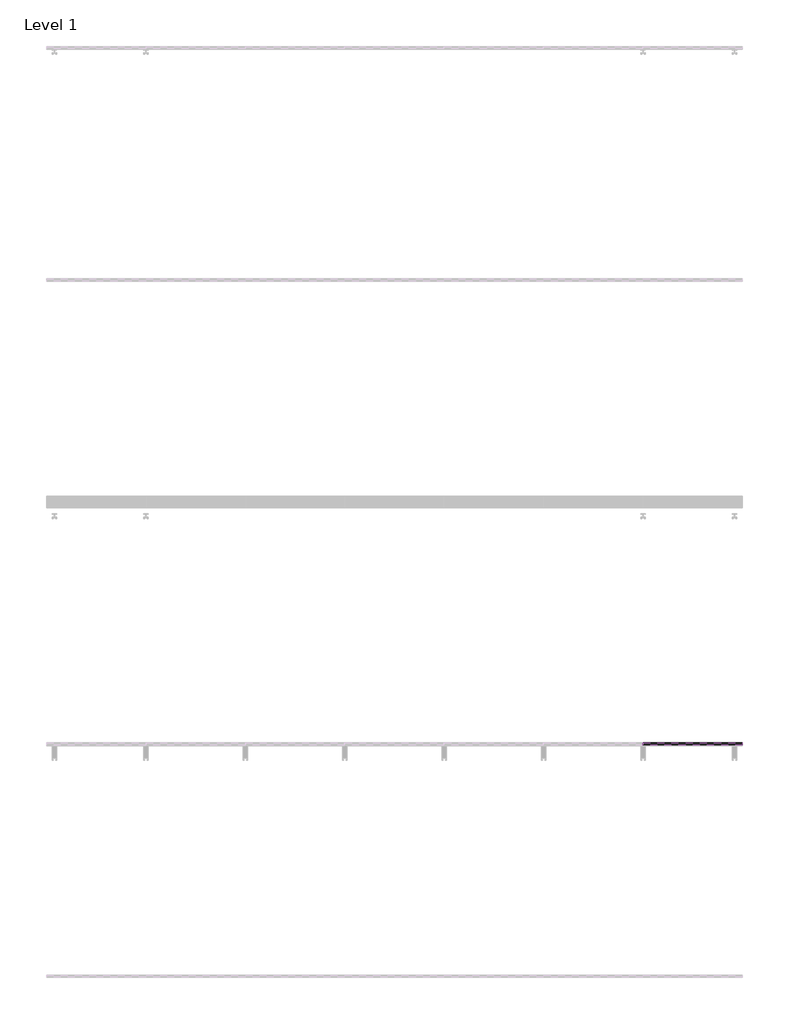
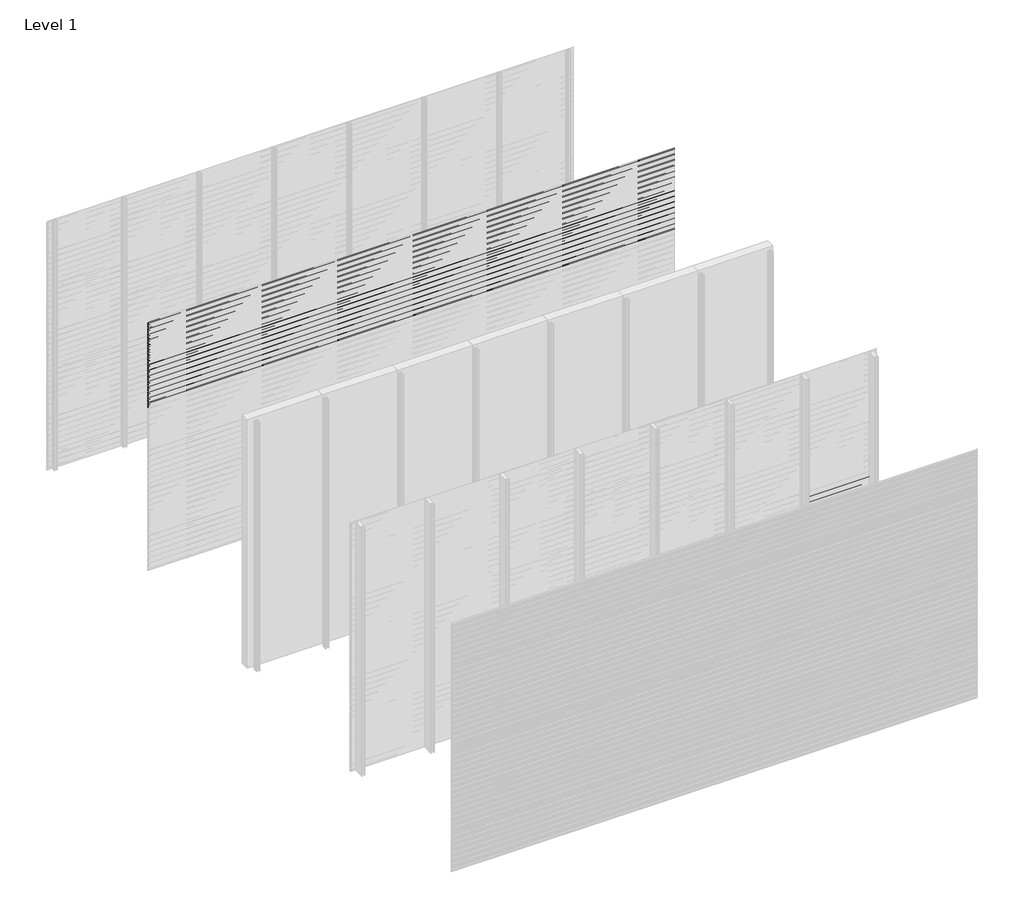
# One storey, part 22 of 96: 77 proxies.
"""IFC4 building model written with IfcOpenShell, lengths in millimetres."""

import ifcopenshell
import ifcopenshell.guid

model = None  # the IFC model being written
_history = None  # IfcOwnerHistory: only IFC2X3 demands one
_inside = {}  # id of a spatial element -> (the spatial element, [elements in it])
_under = {}  # id of a project, library or spatial element -> (it, [spatial elements below it])
_declared = {}  # id of a project -> (the project, [libraries it declares])
_typed = {}  # id of a type object -> (the type object, [elements of that type])
_made_of = {}  # id of a material, layer set ... -> (it, [elements and type objects made of it])


def new_model(schema):
    """Start an empty IFC model of exactly this schema.

    Asked for "IFC4X3", IfcOpenShell would pick the latest addendum, in which some entities
    have other attributes; the version numbers below select the first issue.
    IFC2X3 requires an IfcOwnerHistory on every rooted entity: one is made here for all.
    """
    global model, _history
    if schema == "IFC4X3":
        model = ifcopenshell.file(schema_version=(4, 3, 0, 0))
    else:
        model = ifcopenshell.file(schema=schema)
    _inside.clear()
    _under.clear()
    _declared.clear()
    _typed.clear()
    _made_of.clear()
    _history = None
    if model.schema == "IFC2X3":
        org = make("IfcOrganization", Name="unknown")
        user = make(
            "IfcPersonAndOrganization",
            ThePerson=make("IfcPerson", FamilyName="unknown"),
            TheOrganization=org,
        )
        app = make(
            "IfcApplication",
            ApplicationDeveloper=org,
            Version="unknown",
            ApplicationFullName="unknown",
            ApplicationIdentifier="unknown",
        )
        _history = make(
            "IfcOwnerHistory",
            OwningUser=user,
            OwningApplication=app,
            ChangeAction="ADDED",
            CreationDate=0,
        )
    return model


def make(cls, **values):
    """One entity of the class cls with the attributes given. An attribute that is None is left unset."""
    return model.create_entity(
        cls, **{name: value for name, value in values.items() if value is not None}
    )


def rooted(cls, **values):
    """An entity with a GlobalId (a new one), such as an element, a storey or a relation."""
    return make(cls, GlobalId=ifcopenshell.guid.new(), OwnerHistory=_history, **values)


def si_unit(unit_type, name, prefix=None):
    """IfcSIUnit, for example si_unit("LENGTHUNIT", "METRE", prefix="MILLI")."""
    return make("IfcSIUnit", UnitType=unit_type, Prefix=prefix, Name=name)


def assignment(units):
    """IfcUnitAssignment: the units of a project."""
    return None if units is None else make("IfcUnitAssignment", Units=units)


def point(xyz):
    """IfcCartesianPoint."""
    return None if xyz is None else make("IfcCartesianPoint", Coordinates=xyz)


def direction(xyz):
    """IfcDirection."""
    return None if xyz is None else make("IfcDirection", DirectionRatios=xyz)


def frame(location, z_axis=None, x_axis=None):
    """IfcAxis2Placement3D, a coordinate frame: its origin and axes. An axis left out is left unset."""
    return make(
        "IfcAxis2Placement3D",
        Location=point(location),
        Axis=direction(z_axis),
        RefDirection=direction(x_axis),
    )


def origin():
    """The frame at (0, 0, 0) with its axes left unset."""
    return frame((0.0, 0.0, 0.0))


def place(relative_to, where):
    """IfcLocalPlacement: puts the frame where relative to a parent placement (None: the world)."""
    return make(
        "IfcLocalPlacement", PlacementRelTo=relative_to, RelativePlacement=where
    )


def context(
    kind, dimensions, precision=None, world=None, true_north=None, identifier=None
):
    """IfcGeometricRepresentationContext, for example the 3D "Model" context."""
    return make(
        "IfcGeometricRepresentationContext",
        ContextIdentifier=identifier,
        ContextType=kind,
        CoordinateSpaceDimension=dimensions,
        Precision=precision,
        WorldCoordinateSystem=world,
        TrueNorth=true_north,
    )


def project(units=None, contexts=None):
    """IfcProject with its units and contexts."""
    return rooted(
        "IfcProject",
        Name="project",
        RepresentationContexts=contexts,
        UnitsInContext=assignment(units),
    )


def spatial(cls, under=None, at=None, **own):
    """A site, building, storey or space (cls), placed at a placement, below another one or the project."""
    s = rooted(cls, ObjectPlacement=at, **own)
    if under is not None:
        _under.setdefault(under.id(), (under, []))[1].append(s)
    return s


def polyline(points):
    """IfcPolyline through the points."""
    return make("IfcPolyline", Points=[point(p) for p in points])


def outline(outer, holes=None, kind="AREA"):
    """IfcArbitraryClosedProfileDef: a profile drawn as a closed curve; with holes, ...WithVoids."""
    if holes is None:
        return make("IfcArbitraryClosedProfileDef", ProfileType=kind, OuterCurve=outer)
    return make(
        "IfcArbitraryProfileDefWithVoids",
        ProfileType=kind,
        OuterCurve=outer,
        InnerCurves=holes,
    )


def extrude(swept, where, along, depth):
    """IfcExtrudedAreaSolid: the profile swept, set in the frame where, extruded along a direction by depth."""
    return make(
        "IfcExtrudedAreaSolid",
        SweptArea=swept,
        Position=where,
        ExtrudedDirection=direction(along),
        Depth=depth,
    )


def shape(context_of_items, identifier, shape_type, items):
    """IfcShapeRepresentation: the items that make up one representation, for example the "Body"."""
    return make(
        "IfcShapeRepresentation",
        ContextOfItems=context_of_items,
        RepresentationIdentifier=identifier,
        RepresentationType=shape_type,
        Items=items,
    )


def made_of(thing, what):
    """Note that an element or type object is made of a material, layer set ...; save() writes the relation."""
    if what is not None:
        _made_of.setdefault(what.id(), (what, []))[1].append(thing)
    return thing


def element(
    cls,
    number,
    at=None,
    inside=None,
    cuts=None,
    type_object=None,
    material=None,
    context=None,
    identifier="Body",
    shape_type=None,
    held_by="IfcProductDefinitionShape",
    body=None,
    shapes=None,
    **own,
):
    """One element of the class cls, such as IfcWall. Its Tag is "e" and its number.

    at: its placement. inside: the storey or other place that contains it. cuts: it is an
    opening in that element (IfcRelVoidsElement). A single representation is given by context,
    identifier, shape_type and body (its items); several are given by shapes. held_by: the class
    of the entity that holds the representations. save() writes the other relations.
    """
    e = rooted(cls, Tag="e%d" % number, ObjectPlacement=at, **own)
    if body is not None:
        shapes = [shape(context, identifier, shape_type, body)]
    if shapes is not None:
        e.Representation = make(held_by, Representations=shapes)
    if inside is not None:
        _inside.setdefault(inside.id(), (inside, []))[1].append(e)
    if cuts is not None:
        rooted(
            "IfcRelVoidsElement", RelatingBuildingElement=cuts, RelatedOpeningElement=e
        )
    if type_object is not None:
        _typed.setdefault(type_object.id(), (type_object, []))[1].append(e)
    return made_of(e, material)


def aggregate(whole, parts):
    """IfcRelAggregates: a whole, such as a stair, and the parts it consists of."""
    return rooted("IfcRelAggregates", RelatingObject=whole, RelatedObjects=parts)


def save(model, path):
    """Write the relations noted so far, then the file.

    IfcRelAggregates (storeys below a building ...), IfcRelContainedInSpatialStructure (elements
    in a storey), IfcRelDefinesByType, IfcRelAssociatesMaterial and IfcRelDeclares: one each for
    every whole, place, type object, material and project.
    """
    for whole, parts in _under.values():
        aggregate(whole, parts)
    for where, things in _inside.values():
        rooted(
            "IfcRelContainedInSpatialStructure",
            RelatedElements=things,
            RelatingStructure=where,
        )
    for kind, things in _typed.values():
        rooted("IfcRelDefinesByType", RelatedObjects=things, RelatingType=kind)
    for what, things in _made_of.values():
        rooted("IfcRelAssociatesMaterial", RelatedObjects=things, RelatingMaterial=what)
    for by, libraries in _declared.values():
        rooted("IfcRelDeclares", RelatingContext=by, RelatedDefinitions=libraries)
    model.write(path)


model = new_model("IFC4")

# Units and contexts
model_context = context("Model", 3, world=origin())
ifc_project = project(units=[si_unit("LENGTHUNIT", "METRE", prefix="MILLI")], contexts=[model_context])

# Site, building, storey
site = spatial("IfcSite", under=ifc_project)
building = spatial("IfcBuilding", under=site)
storey = spatial("IfcBuildingStorey", under=building, Name="Level 1", Elevation=0.0)

# Proxies
placement = place(None, origin())
element("IfcBuildingElementProxy", 1, Name="Wall Sweeps", at=placement, inside=storey, context=model_context, shape_type="SweptSolid", body=[
    extrude(outline(polyline([(-43977.6, 2971.7655033), (-43977.6, 2957.4779188), (-43982.4114965, 2954.7), (-43982.4114965, 2955.9701706), (-43978.85, 2958.0264016), (-43978.85, 2971.0437382), (-43998.0, 2982.1000799), (-43998.0, 2997.0), (-43996.75, 2997.0), (-43996.75, 2982.8217609), (-43977.6, 2971.7655033)])), frame((0.0, 0.0, 0.0), z_axis=(1.0, 0.0, 0.0), x_axis=(0.0, 1.0, 0.0)), (0.0, 0.0, 1.0), 6000.0),
])
element("IfcBuildingElementProxy", 2, Name="Wall Sweeps", at=placement, inside=storey, context=model_context, shape_type="SweptSolid", body=[
    extrude(outline(polyline([(-43977.6, 2938.4655033), (-43977.6, 2924.1779188), (-43982.4114965, 2921.4), (-43982.4114965, 2922.6701706), (-43978.85, 2924.7264016), (-43978.85, 2937.7437382), (-43998.0, 2948.8000799), (-43998.0, 2963.7), (-43996.75, 2963.7), (-43996.75, 2949.5217609), (-43977.6, 2938.4655033)])), frame((0.0, 0.0, 0.0), z_axis=(1.0, 0.0, 0.0), x_axis=(0.0, 1.0, 0.0)), (0.0, 0.0, 1.0), 6000.0),
])
element("IfcBuildingElementProxy", 3, Name="Wall Sweeps", at=placement, inside=storey, context=model_context, shape_type="SweptSolid", body=[
    extrude(outline(polyline([(-43977.6, 2905.1655033), (-43977.6, 2890.8779188), (-43982.4114965, 2888.1), (-43982.4114965, 2889.3701706), (-43978.85, 2891.4264016), (-43978.85, 2904.4437382), (-43998.0, 2915.5000799), (-43998.0, 2930.4), (-43996.75, 2930.4), (-43996.75, 2916.2217609), (-43977.6, 2905.1655033)])), frame((0.0, 0.0, 0.0), z_axis=(1.0, 0.0, 0.0), x_axis=(0.0, 1.0, 0.0)), (0.0, 0.0, 1.0), 6000.0),
])
element("IfcBuildingElementProxy", 4, Name="Wall Sweeps", at=placement, inside=storey, context=model_context, shape_type="SweptSolid", body=[
    extrude(outline(polyline([(-43977.6, 2871.8655033), (-43977.6, 2857.5779188), (-43982.4114965, 2854.8), (-43982.4114965, 2856.0701706), (-43978.85, 2858.1264016), (-43978.85, 2871.1437382), (-43998.0, 2882.2000799), (-43998.0, 2897.1), (-43996.75, 2897.1), (-43996.75, 2882.9217609), (-43977.6, 2871.8655033)])), frame((0.0, 0.0, 0.0), z_axis=(1.0, 0.0, 0.0), x_axis=(0.0, 1.0, 0.0)), (0.0, 0.0, 1.0), 6000.0),
])
element("IfcBuildingElementProxy", 5, Name="Wall Sweeps", at=placement, inside=storey, context=model_context, shape_type="SweptSolid", body=[
    extrude(outline(polyline([(-43977.6, 2838.5655033), (-43977.6, 2824.2779188), (-43982.4114965, 2821.5), (-43982.4114965, 2822.7701706), (-43978.85, 2824.8264016), (-43978.85, 2837.8437382), (-43998.0, 2848.9000799), (-43998.0, 2863.8), (-43996.75, 2863.8), (-43996.75, 2849.6217609), (-43977.6, 2838.5655033)])), frame((0.0, 0.0, 0.0), z_axis=(1.0, 0.0, 0.0), x_axis=(0.0, 1.0, 0.0)), (0.0, 0.0, 1.0), 6000.0),
])
element("IfcBuildingElementProxy", 6, Name="Wall Sweeps", at=placement, inside=storey, context=model_context, shape_type="SweptSolid", body=[
    extrude(outline(polyline([(-43977.6, 2805.2655033), (-43977.6, 2790.9779188), (-43982.4114965, 2788.2), (-43982.4114965, 2789.4701706), (-43978.85, 2791.5264016), (-43978.85, 2804.5437382), (-43998.0, 2815.6000799), (-43998.0, 2830.5), (-43996.75, 2830.5), (-43996.75, 2816.3217609), (-43977.6, 2805.2655033)])), frame((0.0, 0.0, 0.0), z_axis=(1.0, 0.0, 0.0), x_axis=(0.0, 1.0, 0.0)), (0.0, 0.0, 1.0), 6000.0),
])
element("IfcBuildingElementProxy", 7, Name="Wall Sweeps", at=placement, inside=storey, context=model_context, shape_type="SweptSolid", body=[
    extrude(outline(polyline([(-43977.6, 2771.9655033), (-43977.6, 2757.6779188), (-43982.4114965, 2754.9), (-43982.4114965, 2756.1701706), (-43978.85, 2758.2264016), (-43978.85, 2771.2437382), (-43998.0, 2782.3000799), (-43998.0, 2797.2), (-43996.75, 2797.2), (-43996.75, 2783.0217609), (-43977.6, 2771.9655033)])), frame((0.0, 0.0, 0.0), z_axis=(1.0, 0.0, 0.0), x_axis=(0.0, 1.0, 0.0)), (0.0, 0.0, 1.0), 6000.0),
])
element("IfcBuildingElementProxy", 8, Name="Wall Sweeps", at=placement, inside=storey, context=model_context, shape_type="SweptSolid", body=[
    extrude(outline(polyline([(-43977.6, 2738.6655033), (-43977.6, 2724.3779188), (-43982.4114965, 2721.6), (-43982.4114965, 2722.8701706), (-43978.85, 2724.9264016), (-43978.85, 2737.9437382), (-43998.0, 2749.0000799), (-43998.0, 2763.9), (-43996.75, 2763.9), (-43996.75, 2749.7217609), (-43977.6, 2738.6655033)])), frame((0.0, 0.0, 0.0), z_axis=(1.0, 0.0, 0.0), x_axis=(0.0, 1.0, 0.0)), (0.0, 0.0, 1.0), 6000.0),
])
element("IfcBuildingElementProxy", 9, Name="Wall Sweeps", at=placement, inside=storey, context=model_context, shape_type="SweptSolid", body=[
    extrude(outline(polyline([(-43977.6, 2705.3655033), (-43977.6, 2691.0779188), (-43982.4114965, 2688.3), (-43982.4114965, 2689.5701706), (-43978.85, 2691.6264016), (-43978.85, 2704.6437382), (-43998.0, 2715.7000799), (-43998.0, 2730.6), (-43996.75, 2730.6), (-43996.75, 2716.4217609), (-43977.6, 2705.3655033)])), frame((0.0, 0.0, 0.0), z_axis=(1.0, 0.0, 0.0), x_axis=(0.0, 1.0, 0.0)), (0.0, 0.0, 1.0), 6000.0),
])
element("IfcBuildingElementProxy", 10, Name="Wall Sweeps", at=placement, inside=storey, context=model_context, shape_type="SweptSolid", body=[
    extrude(outline(polyline([(-43977.6, 2672.0655033), (-43977.6, 2657.7779188), (-43982.4114965, 2655.0), (-43982.4114965, 2656.2701706), (-43978.85, 2658.3264016), (-43978.85, 2671.3437382), (-43998.0, 2682.4000799), (-43998.0, 2697.3), (-43996.75, 2697.3), (-43996.75, 2683.1217609), (-43977.6, 2672.0655033)])), frame((0.0, 0.0, 0.0), z_axis=(1.0, 0.0, 0.0), x_axis=(0.0, 1.0, 0.0)), (0.0, 0.0, 1.0), 6000.0),
])
element("IfcBuildingElementProxy", 11, Name="Wall Sweeps", at=placement, inside=storey, context=model_context, shape_type="SweptSolid", body=[
    extrude(outline(polyline([(-43977.6, 2638.7655033), (-43977.6, 2624.4779188), (-43982.4114965, 2621.7), (-43982.4114965, 2622.9701706), (-43978.85, 2625.0264016), (-43978.85, 2638.0437382), (-43998.0, 2649.1000799), (-43998.0, 2664.0), (-43996.75, 2664.0), (-43996.75, 2649.8217609), (-43977.6, 2638.7655033)])), frame((0.0, 0.0, 0.0), z_axis=(1.0, 0.0, 0.0), x_axis=(0.0, 1.0, 0.0)), (0.0, 0.0, 1.0), 6000.0),
])
element("IfcBuildingElementProxy", 12, Name="Wall Sweeps", at=placement, inside=storey, context=model_context, shape_type="SweptSolid", body=[
    extrude(outline(polyline([(-43977.6, 2605.4655033), (-43977.6, 2591.1779188), (-43982.4114965, 2588.4), (-43982.4114965, 2589.6701706), (-43978.85, 2591.7264016), (-43978.85, 2604.7437382), (-43998.0, 2615.8000799), (-43998.0, 2630.7), (-43996.75, 2630.7), (-43996.75, 2616.5217609), (-43977.6, 2605.4655033)])), frame((0.0, 0.0, 0.0), z_axis=(1.0, 0.0, 0.0), x_axis=(0.0, 1.0, 0.0)), (0.0, 0.0, 1.0), 6000.0),
])
element("IfcBuildingElementProxy", 13, Name="Wall Sweeps", at=placement, inside=storey, context=model_context, shape_type="SweptSolid", body=[
    extrude(outline(polyline([(-43977.6, 2572.1655033), (-43977.6, 2557.8779188), (-43982.4114965, 2555.1), (-43982.4114965, 2556.3701706), (-43978.85, 2558.4264016), (-43978.85, 2571.4437382), (-43998.0, 2582.5000799), (-43998.0, 2597.4), (-43996.75, 2597.4), (-43996.75, 2583.2217609), (-43977.6, 2572.1655033)])), frame((0.0, 0.0, 0.0), z_axis=(1.0, 0.0, 0.0), x_axis=(0.0, 1.0, 0.0)), (0.0, 0.0, 1.0), 6000.0),
])
element("IfcBuildingElementProxy", 14, Name="Wall Sweeps", at=placement, inside=storey, context=model_context, shape_type="SweptSolid", body=[
    extrude(outline(polyline([(-43977.6, 2538.8655033), (-43977.6, 2524.5779188), (-43982.4114965, 2521.8), (-43982.4114965, 2523.0701706), (-43978.85, 2525.1264016), (-43978.85, 2538.1437382), (-43998.0, 2549.2000799), (-43998.0, 2564.1), (-43996.75, 2564.1), (-43996.75, 2549.9217609), (-43977.6, 2538.8655033)])), frame((0.0, 0.0, 0.0), z_axis=(1.0, 0.0, 0.0), x_axis=(0.0, 1.0, 0.0)), (0.0, 0.0, 1.0), 6000.0),
])
element("IfcBuildingElementProxy", 15, Name="Wall Sweeps", at=placement, inside=storey, context=model_context, shape_type="SweptSolid", body=[
    extrude(outline(polyline([(-43977.6, 2505.5655033), (-43977.6, 2491.2779188), (-43982.4114965, 2488.5), (-43982.4114965, 2489.7701706), (-43978.85, 2491.8264016), (-43978.85, 2504.8437382), (-43998.0, 2515.9000799), (-43998.0, 2530.8), (-43996.75, 2530.8), (-43996.75, 2516.6217609), (-43977.6, 2505.5655033)])), frame((0.0, 0.0, 0.0), z_axis=(1.0, 0.0, 0.0), x_axis=(0.0, 1.0, 0.0)), (0.0, 0.0, 1.0), 6000.0),
])
element("IfcBuildingElementProxy", 16, Name="Wall Sweeps", at=placement, inside=storey, context=model_context, shape_type="SweptSolid", body=[
    extrude(outline(polyline([(-43977.6, 2472.2655033), (-43977.6, 2457.9779188), (-43982.4114965, 2455.2), (-43982.4114965, 2456.4701706), (-43978.85, 2458.5264016), (-43978.85, 2471.5437382), (-43998.0, 2482.6000799), (-43998.0, 2497.5), (-43996.75, 2497.5), (-43996.75, 2483.3217609), (-43977.6, 2472.2655033)])), frame((0.0, 0.0, 0.0), z_axis=(1.0, 0.0, 0.0), x_axis=(0.0, 1.0, 0.0)), (0.0, 0.0, 1.0), 6000.0),
])
element("IfcBuildingElementProxy", 17, Name="Wall Sweeps", at=placement, inside=storey, context=model_context, shape_type="SweptSolid", body=[
    extrude(outline(polyline([(-43977.6, 2438.9655033), (-43977.6, 2424.6779188), (-43982.4114965, 2421.9), (-43982.4114965, 2423.1701706), (-43978.85, 2425.2264016), (-43978.85, 2438.2437382), (-43998.0, 2449.3000799), (-43998.0, 2464.2), (-43996.75, 2464.2), (-43996.75, 2450.0217609), (-43977.6, 2438.9655033)])), frame((0.0, 0.0, 0.0), z_axis=(1.0, 0.0, 0.0), x_axis=(0.0, 1.0, 0.0)), (0.0, 0.0, 1.0), 6000.0),
])
element("IfcBuildingElementProxy", 18, Name="Wall Sweeps", at=placement, inside=storey, context=model_context, shape_type="SweptSolid", body=[
    extrude(outline(polyline([(-43977.6, 2405.6655033), (-43977.6, 2391.3779188), (-43982.4114965, 2388.6), (-43982.4114965, 2389.8701706), (-43978.85, 2391.9264016), (-43978.85, 2404.9437382), (-43998.0, 2416.0000799), (-43998.0, 2430.9), (-43996.75, 2430.9), (-43996.75, 2416.7217609), (-43977.6, 2405.6655033)])), frame((0.0, 0.0, 0.0), z_axis=(1.0, 0.0, 0.0), x_axis=(0.0, 1.0, 0.0)), (0.0, 0.0, 1.0), 6000.0),
])
element("IfcBuildingElementProxy", 19, Name="Wall Sweeps", at=placement, inside=storey, context=model_context, shape_type="SweptSolid", body=[
    extrude(outline(polyline([(-43977.6, 2372.3655033), (-43977.6, 2358.0779188), (-43982.4114965, 2355.3), (-43982.4114965, 2356.5701706), (-43978.85, 2358.6264016), (-43978.85, 2371.6437382), (-43998.0, 2382.7000799), (-43998.0, 2397.6), (-43996.75, 2397.6), (-43996.75, 2383.4217609), (-43977.6, 2372.3655033)])), frame((0.0, 0.0, 0.0), z_axis=(1.0, 0.0, 0.0), x_axis=(0.0, 1.0, 0.0)), (0.0, 0.0, 1.0), 6000.0),
])
element("IfcBuildingElementProxy", 20, Name="Wall Sweeps", at=placement, inside=storey, context=model_context, shape_type="SweptSolid", body=[
    extrude(outline(polyline([(-43977.6, 2339.0655033), (-43977.6, 2324.7779188), (-43982.4114965, 2322.0), (-43982.4114965, 2323.2701706), (-43978.85, 2325.3264016), (-43978.85, 2338.3437382), (-43998.0, 2349.4000799), (-43998.0, 2364.3), (-43996.75, 2364.3), (-43996.75, 2350.1217609), (-43977.6, 2339.0655033)])), frame((0.0, 0.0, 0.0), z_axis=(1.0, 0.0, 0.0), x_axis=(0.0, 1.0, 0.0)), (0.0, 0.0, 1.0), 6000.0),
])
element("IfcBuildingElementProxy", 21, Name="Wall Sweeps", at=placement, inside=storey, context=model_context, shape_type="SweptSolid", body=[
    extrude(outline(polyline([(-43977.6, 2305.7655033), (-43977.6, 2291.4779188), (-43982.4114965, 2288.7), (-43982.4114965, 2289.9701706), (-43978.85, 2292.0264016), (-43978.85, 2305.0437382), (-43998.0, 2316.1000799), (-43998.0, 2331.0), (-43996.75, 2331.0), (-43996.75, 2316.8217609), (-43977.6, 2305.7655033)])), frame((0.0, 0.0, 0.0), z_axis=(1.0, 0.0, 0.0), x_axis=(0.0, 1.0, 0.0)), (0.0, 0.0, 1.0), 6000.0),
])
element("IfcBuildingElementProxy", 22, Name="Wall Sweeps", at=placement, inside=storey, context=model_context, shape_type="SweptSolid", body=[
    extrude(outline(polyline([(-43977.6, 2272.4655033), (-43977.6, 2258.1779188), (-43982.4114965, 2255.4), (-43982.4114965, 2256.6701706), (-43978.85, 2258.7264016), (-43978.85, 2271.7437382), (-43998.0, 2282.8000799), (-43998.0, 2297.7), (-43996.75, 2297.7), (-43996.75, 2283.5217609), (-43977.6, 2272.4655033)])), frame((0.0, 0.0, 0.0), z_axis=(1.0, 0.0, 0.0), x_axis=(0.0, 1.0, 0.0)), (0.0, 0.0, 1.0), 6000.0),
])
element("IfcBuildingElementProxy", 23, Name="Wall Sweeps", at=placement, inside=storey, context=model_context, shape_type="SweptSolid", body=[
    extrude(outline(polyline([(-43977.6, 2239.1655033), (-43977.6, 2224.8779188), (-43982.4114965, 2222.1), (-43982.4114965, 2223.3701706), (-43978.85, 2225.4264016), (-43978.85, 2238.4437382), (-43998.0, 2249.5000799), (-43998.0, 2264.4), (-43996.75, 2264.4), (-43996.75, 2250.2217609), (-43977.6, 2239.1655033)])), frame((0.0, 0.0, 0.0), z_axis=(1.0, 0.0, 0.0), x_axis=(0.0, 1.0, 0.0)), (0.0, 0.0, 1.0), 6000.0),
])
element("IfcBuildingElementProxy", 24, Name="Wall Sweeps", at=placement, inside=storey, context=model_context, shape_type="SweptSolid", body=[
    extrude(outline(polyline([(-43977.6, 2205.8655033), (-43977.6, 2191.5779188), (-43982.4114965, 2188.8), (-43982.4114965, 2190.0701706), (-43978.85, 2192.1264016), (-43978.85, 2205.1437382), (-43998.0, 2216.2000799), (-43998.0, 2231.1), (-43996.75, 2231.1), (-43996.75, 2216.9217609), (-43977.6, 2205.8655033)])), frame((0.0, 0.0, 0.0), z_axis=(1.0, 0.0, 0.0), x_axis=(0.0, 1.0, 0.0)), (0.0, 0.0, 1.0), 6000.0),
])
element("IfcBuildingElementProxy", 25, Name="Wall Sweeps", at=placement, inside=storey, context=model_context, shape_type="SweptSolid", body=[
    extrude(outline(polyline([(-43977.6, 2172.5655033), (-43977.6, 2158.2779188), (-43982.4114965, 2155.5), (-43982.4114965, 2156.7701706), (-43978.85, 2158.8264016), (-43978.85, 2171.8437382), (-43998.0, 2182.9000799), (-43998.0, 2197.8), (-43996.75, 2197.8), (-43996.75, 2183.6217609), (-43977.6, 2172.5655033)])), frame((0.0, 0.0, 0.0), z_axis=(1.0, 0.0, 0.0), x_axis=(0.0, 1.0, 0.0)), (0.0, 0.0, 1.0), 6000.0),
])
element("IfcBuildingElementProxy", 26, Name="Wall Sweeps", at=placement, inside=storey, context=model_context, shape_type="SweptSolid", body=[
    extrude(outline(polyline([(-43977.6, 2139.2655033), (-43977.6, 2124.9779188), (-43982.4114965, 2122.2), (-43982.4114965, 2123.4701706), (-43978.85, 2125.5264016), (-43978.85, 2138.5437382), (-43998.0, 2149.6000799), (-43998.0, 2164.5), (-43996.75, 2164.5), (-43996.75, 2150.3217609), (-43977.6, 2139.2655033)])), frame((0.0, 0.0, 0.0), z_axis=(1.0, 0.0, 0.0), x_axis=(0.0, 1.0, 0.0)), (0.0, 0.0, 1.0), 6000.0),
])
element("IfcBuildingElementProxy", 27, Name="Wall Sweeps", at=placement, inside=storey, context=model_context, shape_type="SweptSolid", body=[
    extrude(outline(polyline([(-43977.6, 2105.9655033), (-43977.6, 2091.6779188), (-43982.4114965, 2088.9), (-43982.4114965, 2090.1701706), (-43978.85, 2092.2264016), (-43978.85, 2105.2437382), (-43998.0, 2116.3000799), (-43998.0, 2131.2), (-43996.75, 2131.2), (-43996.75, 2117.0217609), (-43977.6, 2105.9655033)])), frame((0.0, 0.0, 0.0), z_axis=(1.0, 0.0, 0.0), x_axis=(0.0, 1.0, 0.0)), (0.0, 0.0, 1.0), 6000.0),
])
element("IfcBuildingElementProxy", 28, Name="Wall Sweeps", at=placement, inside=storey, context=model_context, shape_type="SweptSolid", body=[
    extrude(outline(polyline([(-43977.6, 2072.6655033), (-43977.6, 2058.3779188), (-43982.4114965, 2055.6), (-43982.4114965, 2056.8701706), (-43978.85, 2058.9264016), (-43978.85, 2071.9437382), (-43998.0, 2083.0000799), (-43998.0, 2097.9), (-43996.75, 2097.9), (-43996.75, 2083.7217609), (-43977.6, 2072.6655033)])), frame((0.0, 0.0, 0.0), z_axis=(1.0, 0.0, 0.0), x_axis=(0.0, 1.0, 0.0)), (0.0, 0.0, 1.0), 6000.0),
])
element("IfcBuildingElementProxy", 29, Name="Wall Sweeps", at=placement, inside=storey, context=model_context, shape_type="SweptSolid", body=[
    extrude(outline(polyline([(-43977.6, 2039.3655033), (-43977.6, 2025.0779188), (-43982.4114965, 2022.3), (-43982.4114965, 2023.5701706), (-43978.85, 2025.6264016), (-43978.85, 2038.6437382), (-43998.0, 2049.7000799), (-43998.0, 2064.6), (-43996.75, 2064.6), (-43996.75, 2050.4217609), (-43977.6, 2039.3655033)])), frame((0.0, 0.0, 0.0), z_axis=(1.0, 0.0, 0.0), x_axis=(0.0, 1.0, 0.0)), (0.0, 0.0, 1.0), 6000.0),
])
element("IfcBuildingElementProxy", 30, Name="Wall Sweeps", at=placement, inside=storey, context=model_context, shape_type="SweptSolid", body=[
    extrude(outline(polyline([(-43977.6, 2006.0655033), (-43977.6, 1991.7779188), (-43982.4114965, 1989.0), (-43982.4114965, 1990.2701706), (-43978.85, 1992.3264016), (-43978.85, 2005.3437382), (-43998.0, 2016.4000799), (-43998.0, 2031.3), (-43996.75, 2031.3), (-43996.75, 2017.1217609), (-43977.6, 2006.0655033)])), frame((0.0, 0.0, 0.0), z_axis=(1.0, 0.0, 0.0), x_axis=(0.0, 1.0, 0.0)), (0.0, 0.0, 1.0), 6000.0),
])
element("IfcBuildingElementProxy", 31, Name="Wall Sweeps", at=placement, inside=storey, context=model_context, shape_type="SweptSolid", body=[
    extrude(outline(polyline([(-43977.6, 1972.7655033), (-43977.6, 1958.4779188), (-43982.4114965, 1955.7), (-43982.4114965, 1956.9701706), (-43978.85, 1959.0264016), (-43978.85, 1972.0437382), (-43998.0, 1983.1000799), (-43998.0, 1998.0), (-43996.75, 1998.0), (-43996.75, 1983.8217609), (-43977.6, 1972.7655033)])), frame((0.0, 0.0, 0.0), z_axis=(1.0, 0.0, 0.0), x_axis=(0.0, 1.0, 0.0)), (0.0, 0.0, 1.0), 6000.0),
])
element("IfcBuildingElementProxy", 32, Name="Wall Sweeps", at=placement, inside=storey, context=model_context, shape_type="SweptSolid", body=[
    extrude(outline(polyline([(-47977.6, 1506.5655033), (-47977.6, 1492.2779188), (-47982.4114965, 1489.5), (-47982.4114965, 1490.7701706), (-47978.85, 1492.8264016), (-47978.85, 1505.8437382), (-47998.0, 1516.9000799), (-47998.0, 1531.8), (-47996.75, 1531.8), (-47996.75, 1517.6217609), (-47977.6, 1506.5655033)])), frame((5142.8571429, 0.0, 0.0), z_axis=(1.0, 0.0, 0.0), x_axis=(0.0, 1.0, 0.0)), (0.0, 0.0, 1.0), 857.1428571),
])
element("IfcBuildingElementProxy", 33, Name="Wall Sweeps", at=placement, inside=storey, context=model_context, shape_type="SweptSolid", body=[
    extrude(outline(polyline([(-47977.6, 1473.2655033), (-47977.6, 1458.9779188), (-47982.4114965, 1456.2), (-47982.4114965, 1457.4701706), (-47978.85, 1459.5264016), (-47978.85, 1472.5437382), (-47998.0, 1483.6000799), (-47998.0, 1498.5), (-47996.75, 1498.5), (-47996.75, 1484.3217609), (-47977.6, 1473.2655033)])), frame((5142.8571429, 0.0, 0.0), z_axis=(1.0, 0.0, 0.0), x_axis=(0.0, 1.0, 0.0)), (0.0, 0.0, 1.0), 857.1428571),
])
element("IfcBuildingElementProxy", 34, Name="Wall Sweeps", at=placement, inside=storey, context=model_context, shape_type="SweptSolid", body=[
    extrude(outline(polyline([(-47977.6, 1439.9655033), (-47977.6, 1425.6779188), (-47982.4114965, 1422.9), (-47982.4114965, 1424.1701706), (-47978.85, 1426.2264016), (-47978.85, 1439.2437382), (-47998.0, 1450.3000799), (-47998.0, 1465.2), (-47996.75, 1465.2), (-47996.75, 1451.0217609), (-47977.6, 1439.9655033)])), frame((5142.8571429, 0.0, 0.0), z_axis=(1.0, 0.0, 0.0), x_axis=(0.0, 1.0, 0.0)), (0.0, 0.0, 1.0), 857.1428571),
])
element("IfcBuildingElementProxy", 35, Name="Wall Sweeps", at=placement, inside=storey, context=model_context, shape_type="SweptSolid", body=[
    extrude(outline(polyline([(-47977.6, 1406.6655033), (-47977.6, 1392.3779188), (-47982.4114965, 1389.6), (-47982.4114965, 1390.8701706), (-47978.85, 1392.9264016), (-47978.85, 1405.9437382), (-47998.0, 1417.0000799), (-47998.0, 1431.9), (-47996.75, 1431.9), (-47996.75, 1417.7217609), (-47977.6, 1406.6655033)])), frame((5142.8571429, 0.0, 0.0), z_axis=(1.0, 0.0, 0.0), x_axis=(0.0, 1.0, 0.0)), (0.0, 0.0, 1.0), 857.1428571),
])
element("IfcBuildingElementProxy", 36, Name="Wall Sweeps", at=placement, inside=storey, context=model_context, shape_type="SweptSolid", body=[
    extrude(outline(polyline([(-47977.6, 1373.3655033), (-47977.6, 1359.0779188), (-47982.4114965, 1356.3), (-47982.4114965, 1357.5701706), (-47978.85, 1359.6264016), (-47978.85, 1372.6437382), (-47998.0, 1383.7000799), (-47998.0, 1398.6), (-47996.75, 1398.6), (-47996.75, 1384.4217609), (-47977.6, 1373.3655033)])), frame((5142.8571429, 0.0, 0.0), z_axis=(1.0, 0.0, 0.0), x_axis=(0.0, 1.0, 0.0)), (0.0, 0.0, 1.0), 857.1428571),
])
element("IfcBuildingElementProxy", 37, Name="Wall Sweeps", at=placement, inside=storey, context=model_context, shape_type="SweptSolid", body=[
    extrude(outline(polyline([(-47977.6, 1340.0655033), (-47977.6, 1325.7779188), (-47982.4114965, 1323.0), (-47982.4114965, 1324.2701706), (-47978.85, 1326.3264016), (-47978.85, 1339.3437382), (-47998.0, 1350.4000799), (-47998.0, 1365.3), (-47996.75, 1365.3), (-47996.75, 1351.1217609), (-47977.6, 1340.0655033)])), frame((5142.8571429, 0.0, 0.0), z_axis=(1.0, 0.0, 0.0), x_axis=(0.0, 1.0, 0.0)), (0.0, 0.0, 1.0), 857.1428571),
])
element("IfcBuildingElementProxy", 38, Name="Wall Sweeps", at=placement, inside=storey, context=model_context, shape_type="SweptSolid", body=[
    extrude(outline(polyline([(-47977.6, 1306.7655033), (-47977.6, 1292.4779188), (-47982.4114965, 1289.7), (-47982.4114965, 1290.9701706), (-47978.85, 1293.0264016), (-47978.85, 1306.0437382), (-47998.0, 1317.1000799), (-47998.0, 1332.0), (-47996.75, 1332.0), (-47996.75, 1317.8217609), (-47977.6, 1306.7655033)])), frame((5142.8571429, 0.0, 0.0), z_axis=(1.0, 0.0, 0.0), x_axis=(0.0, 1.0, 0.0)), (0.0, 0.0, 1.0), 857.1428571),
])
element("IfcBuildingElementProxy", 39, Name="Wall Sweeps", at=placement, inside=storey, context=model_context, shape_type="SweptSolid", body=[
    extrude(outline(polyline([(-47977.6, 1273.4655033), (-47977.6, 1259.1779188), (-47982.4114965, 1256.4), (-47982.4114965, 1257.6701706), (-47978.85, 1259.7264016), (-47978.85, 1272.7437382), (-47998.0, 1283.8000799), (-47998.0, 1298.7), (-47996.75, 1298.7), (-47996.75, 1284.5217609), (-47977.6, 1273.4655033)])), frame((5142.8571429, 0.0, 0.0), z_axis=(1.0, 0.0, 0.0), x_axis=(0.0, 1.0, 0.0)), (0.0, 0.0, 1.0), 857.1428571),
])
element("IfcBuildingElementProxy", 40, Name="Wall Sweeps", at=placement, inside=storey, context=model_context, shape_type="SweptSolid", body=[
    extrude(outline(polyline([(-47977.6, 1240.1655033), (-47977.6, 1225.8779188), (-47982.4114965, 1223.1), (-47982.4114965, 1224.3701706), (-47978.85, 1226.4264016), (-47978.85, 1239.4437382), (-47998.0, 1250.5000799), (-47998.0, 1265.4), (-47996.75, 1265.4), (-47996.75, 1251.2217609), (-47977.6, 1240.1655033)])), frame((5142.8571429, 0.0, 0.0), z_axis=(1.0, 0.0, 0.0), x_axis=(0.0, 1.0, 0.0)), (0.0, 0.0, 1.0), 857.1428571),
])
element("IfcBuildingElementProxy", 41, Name="Wall Sweeps", at=placement, inside=storey, context=model_context, shape_type="SweptSolid", body=[
    extrude(outline(polyline([(-47977.6, 1206.8655033), (-47977.6, 1192.5779188), (-47982.4114965, 1189.8), (-47982.4114965, 1191.0701706), (-47978.85, 1193.1264016), (-47978.85, 1206.1437382), (-47998.0, 1217.2000799), (-47998.0, 1232.1), (-47996.75, 1232.1), (-47996.75, 1217.9217609), (-47977.6, 1206.8655033)])), frame((5142.8571429, 0.0, 0.0), z_axis=(1.0, 0.0, 0.0), x_axis=(0.0, 1.0, 0.0)), (0.0, 0.0, 1.0), 857.1428571),
])
element("IfcBuildingElementProxy", 42, Name="Wall Sweeps", at=placement, inside=storey, context=model_context, shape_type="SweptSolid", body=[
    extrude(outline(polyline([(-47977.6, 1173.5655033), (-47977.6, 1159.2779188), (-47982.4114965, 1156.5), (-47982.4114965, 1157.7701706), (-47978.85, 1159.8264016), (-47978.85, 1172.8437382), (-47998.0, 1183.9000799), (-47998.0, 1198.8), (-47996.75, 1198.8), (-47996.75, 1184.6217609), (-47977.6, 1173.5655033)])), frame((5142.8571429, 0.0, 0.0), z_axis=(1.0, 0.0, 0.0), x_axis=(0.0, 1.0, 0.0)), (0.0, 0.0, 1.0), 857.1428571),
])
element("IfcBuildingElementProxy", 43, Name="Wall Sweeps", at=placement, inside=storey, context=model_context, shape_type="SweptSolid", body=[
    extrude(outline(polyline([(-47977.6, 1140.2655033), (-47977.6, 1125.9779188), (-47982.4114965, 1123.2), (-47982.4114965, 1124.4701706), (-47978.85, 1126.5264016), (-47978.85, 1139.5437382), (-47998.0, 1150.6000799), (-47998.0, 1165.5), (-47996.75, 1165.5), (-47996.75, 1151.3217609), (-47977.6, 1140.2655033)])), frame((5142.8571429, 0.0, 0.0), z_axis=(1.0, 0.0, 0.0), x_axis=(0.0, 1.0, 0.0)), (0.0, 0.0, 1.0), 857.1428571),
])
element("IfcBuildingElementProxy", 44, Name="Wall Sweeps", at=placement, inside=storey, context=model_context, shape_type="SweptSolid", body=[
    extrude(outline(polyline([(-47977.6, 1106.9655033), (-47977.6, 1092.6779188), (-47982.4114965, 1089.9), (-47982.4114965, 1091.1701706), (-47978.85, 1093.2264016), (-47978.85, 1106.2437382), (-47998.0, 1117.3000799), (-47998.0, 1132.2), (-47996.75, 1132.2), (-47996.75, 1118.0217609), (-47977.6, 1106.9655033)])), frame((5142.8571429, 0.0, 0.0), z_axis=(1.0, 0.0, 0.0), x_axis=(0.0, 1.0, 0.0)), (0.0, 0.0, 1.0), 857.1428571),
])
element("IfcBuildingElementProxy", 45, Name="Wall Sweeps", at=placement, inside=storey, context=model_context, shape_type="SweptSolid", body=[
    extrude(outline(polyline([(-47977.6, 1073.6655033), (-47977.6, 1059.3779188), (-47982.4114965, 1056.6), (-47982.4114965, 1057.8701706), (-47978.85, 1059.9264016), (-47978.85, 1072.9437382), (-47998.0, 1084.0000799), (-47998.0, 1098.9), (-47996.75, 1098.9), (-47996.75, 1084.7217609), (-47977.6, 1073.6655033)])), frame((5142.8571429, 0.0, 0.0), z_axis=(1.0, 0.0, 0.0), x_axis=(0.0, 1.0, 0.0)), (0.0, 0.0, 1.0), 857.1428571),
])
element("IfcBuildingElementProxy", 46, Name="Wall Sweeps", at=placement, inside=storey, context=model_context, shape_type="SweptSolid", body=[
    extrude(outline(polyline([(-47977.6, 1040.3655033), (-47977.6, 1026.0779188), (-47982.4114965, 1023.3), (-47982.4114965, 1024.5701706), (-47978.85, 1026.6264016), (-47978.85, 1039.6437382), (-47998.0, 1050.7000799), (-47998.0, 1065.6), (-47996.75, 1065.6), (-47996.75, 1051.4217609), (-47977.6, 1040.3655033)])), frame((5142.8571429, 0.0, 0.0), z_axis=(1.0, 0.0, 0.0), x_axis=(0.0, 1.0, 0.0)), (0.0, 0.0, 1.0), 857.1428571),
])
element("IfcBuildingElementProxy", 47, Name="Wall Sweeps", at=placement, inside=storey, context=model_context, shape_type="SweptSolid", body=[
    extrude(outline(polyline([(-47977.6, 1007.0655033), (-47977.6, 992.7779188), (-47982.4114965, 990.0), (-47982.4114965, 991.2701706), (-47978.85, 993.3264016), (-47978.85, 1006.3437382), (-47998.0, 1017.4000799), (-47998.0, 1032.3), (-47996.75, 1032.3), (-47996.75, 1018.1217609), (-47977.6, 1007.0655033)])), frame((5142.8571429, 0.0, 0.0), z_axis=(1.0, 0.0, 0.0), x_axis=(0.0, 1.0, 0.0)), (0.0, 0.0, 1.0), 857.1428571),
])
element("IfcBuildingElementProxy", 48, Name="Wall Sweeps", at=placement, inside=storey, context=model_context, shape_type="SweptSolid", body=[
    extrude(outline(polyline([(-47977.6, 973.7655033), (-47977.6, 959.4779188), (-47982.4114965, 956.7), (-47982.4114965, 957.9701706), (-47978.85, 960.0264016), (-47978.85, 973.0437382), (-47998.0, 984.1000799), (-47998.0, 999.0), (-47996.75, 999.0), (-47996.75, 984.8217609), (-47977.6, 973.7655033)])), frame((5142.8571429, 0.0, 0.0), z_axis=(1.0, 0.0, 0.0), x_axis=(0.0, 1.0, 0.0)), (0.0, 0.0, 1.0), 857.1428571),
])
element("IfcBuildingElementProxy", 49, Name="Wall Sweeps", at=placement, inside=storey, context=model_context, shape_type="SweptSolid", body=[
    extrude(outline(polyline([(-47977.6, 940.4655033), (-47977.6, 926.1779188), (-47982.4114965, 923.4), (-47982.4114965, 924.6701706), (-47978.85, 926.7264016), (-47978.85, 939.7437382), (-47998.0, 950.8000799), (-47998.0, 965.7), (-47996.75, 965.7), (-47996.75, 951.5217609), (-47977.6, 940.4655033)])), frame((5142.8571429, 0.0, 0.0), z_axis=(1.0, 0.0, 0.0), x_axis=(0.0, 1.0, 0.0)), (0.0, 0.0, 1.0), 857.1428571),
])
element("IfcBuildingElementProxy", 50, Name="Wall Sweeps", at=placement, inside=storey, context=model_context, shape_type="SweptSolid", body=[
    extrude(outline(polyline([(-47977.6, 907.1655033), (-47977.6, 892.8779188), (-47982.4114965, 890.1), (-47982.4114965, 891.3701706), (-47978.85, 893.4264016), (-47978.85, 906.4437382), (-47998.0, 917.5000799), (-47998.0, 932.4), (-47996.75, 932.4), (-47996.75, 918.2217609), (-47977.6, 907.1655033)])), frame((5142.8571429, 0.0, 0.0), z_axis=(1.0, 0.0, 0.0), x_axis=(0.0, 1.0, 0.0)), (0.0, 0.0, 1.0), 857.1428571),
])
element("IfcBuildingElementProxy", 51, Name="Wall Sweeps", at=placement, inside=storey, context=model_context, shape_type="SweptSolid", body=[
    extrude(outline(polyline([(-47977.6, 873.8655033), (-47977.6, 859.5779188), (-47982.4114965, 856.8), (-47982.4114965, 858.0701706), (-47978.85, 860.1264016), (-47978.85, 873.1437382), (-47998.0, 884.2000799), (-47998.0, 899.1), (-47996.75, 899.1), (-47996.75, 884.9217609), (-47977.6, 873.8655033)])), frame((5142.8571429, 0.0, 0.0), z_axis=(1.0, 0.0, 0.0), x_axis=(0.0, 1.0, 0.0)), (0.0, 0.0, 1.0), 857.1428571),
])
element("IfcBuildingElementProxy", 52, Name="Wall Sweeps", at=placement, inside=storey, context=model_context, shape_type="SweptSolid", body=[
    extrude(outline(polyline([(-47977.6, 840.5655033), (-47977.6, 826.2779188), (-47982.4114965, 823.5), (-47982.4114965, 824.7701706), (-47978.85, 826.8264016), (-47978.85, 839.8437382), (-47998.0, 850.9000799), (-47998.0, 865.8), (-47996.75, 865.8), (-47996.75, 851.6217609), (-47977.6, 840.5655033)])), frame((5142.8571429, 0.0, 0.0), z_axis=(1.0, 0.0, 0.0), x_axis=(0.0, 1.0, 0.0)), (0.0, 0.0, 1.0), 857.1428571),
])
element("IfcBuildingElementProxy", 53, Name="Wall Sweeps", at=placement, inside=storey, context=model_context, shape_type="SweptSolid", body=[
    extrude(outline(polyline([(-47977.6, 807.2655033), (-47977.6, 792.9779188), (-47982.4114965, 790.2), (-47982.4114965, 791.4701706), (-47978.85, 793.5264016), (-47978.85, 806.5437382), (-47998.0, 817.6000799), (-47998.0, 832.5), (-47996.75, 832.5), (-47996.75, 818.3217609), (-47977.6, 807.2655033)])), frame((5142.8571429, 0.0, 0.0), z_axis=(1.0, 0.0, 0.0), x_axis=(0.0, 1.0, 0.0)), (0.0, 0.0, 1.0), 857.1428571),
])
element("IfcBuildingElementProxy", 54, Name="Wall Sweeps", at=placement, inside=storey, context=model_context, shape_type="SweptSolid", body=[
    extrude(outline(polyline([(-47977.6, 773.9655033), (-47977.6, 759.6779188), (-47982.4114965, 756.9), (-47982.4114965, 758.1701706), (-47978.85, 760.2264016), (-47978.85, 773.2437382), (-47998.0, 784.3000799), (-47998.0, 799.2), (-47996.75, 799.2), (-47996.75, 785.0217609), (-47977.6, 773.9655033)])), frame((5142.8571429, 0.0, 0.0), z_axis=(1.0, 0.0, 0.0), x_axis=(0.0, 1.0, 0.0)), (0.0, 0.0, 1.0), 857.1428571),
])
element("IfcBuildingElementProxy", 55, Name="Wall Sweeps", at=placement, inside=storey, context=model_context, shape_type="SweptSolid", body=[
    extrude(outline(polyline([(-47977.6, 740.6655033), (-47977.6, 726.3779188), (-47982.4114965, 723.6), (-47982.4114965, 724.8701706), (-47978.85, 726.9264016), (-47978.85, 739.9437382), (-47998.0, 751.0000799), (-47998.0, 765.9), (-47996.75, 765.9), (-47996.75, 751.7217609), (-47977.6, 740.6655033)])), frame((5142.8571429, 0.0, 0.0), z_axis=(1.0, 0.0, 0.0), x_axis=(0.0, 1.0, 0.0)), (0.0, 0.0, 1.0), 857.1428571),
])
element("IfcBuildingElementProxy", 56, Name="Wall Sweeps", at=placement, inside=storey, context=model_context, shape_type="SweptSolid", body=[
    extrude(outline(polyline([(-47977.6, 707.3655033), (-47977.6, 693.0779188), (-47982.4114965, 690.3), (-47982.4114965, 691.5701706), (-47978.85, 693.6264016), (-47978.85, 706.6437382), (-47998.0, 717.7000799), (-47998.0, 732.6), (-47996.75, 732.6), (-47996.75, 718.4217609), (-47977.6, 707.3655033)])), frame((5142.8571429, 0.0, 0.0), z_axis=(1.0, 0.0, 0.0), x_axis=(0.0, 1.0, 0.0)), (0.0, 0.0, 1.0), 857.1428571),
])
element("IfcBuildingElementProxy", 57, Name="Wall Sweeps", at=placement, inside=storey, context=model_context, shape_type="SweptSolid", body=[
    extrude(outline(polyline([(-47977.6, 674.0655033), (-47977.6, 659.7779188), (-47982.4114965, 657.0), (-47982.4114965, 658.2701706), (-47978.85, 660.3264016), (-47978.85, 673.3437382), (-47998.0, 684.4000799), (-47998.0, 699.3), (-47996.75, 699.3), (-47996.75, 685.1217609), (-47977.6, 674.0655033)])), frame((5142.8571429, 0.0, 0.0), z_axis=(1.0, 0.0, 0.0), x_axis=(0.0, 1.0, 0.0)), (0.0, 0.0, 1.0), 857.1428571),
])
element("IfcBuildingElementProxy", 58, Name="Wall Sweeps", at=placement, inside=storey, context=model_context, shape_type="SweptSolid", body=[
    extrude(outline(polyline([(-47977.6, 640.7655033), (-47977.6, 626.4779188), (-47982.4114965, 623.7), (-47982.4114965, 624.9701706), (-47978.85, 627.0264016), (-47978.85, 640.0437382), (-47998.0, 651.1000799), (-47998.0, 666.0), (-47996.75, 666.0), (-47996.75, 651.8217609), (-47977.6, 640.7655033)])), frame((5142.8571429, 0.0, 0.0), z_axis=(1.0, 0.0, 0.0), x_axis=(0.0, 1.0, 0.0)), (0.0, 0.0, 1.0), 857.1428571),
])
element("IfcBuildingElementProxy", 59, Name="Wall Sweeps", at=placement, inside=storey, context=model_context, shape_type="SweptSolid", body=[
    extrude(outline(polyline([(-47977.6, 607.4655033), (-47977.6, 593.1779188), (-47982.4114965, 590.4), (-47982.4114965, 591.6701706), (-47978.85, 593.7264016), (-47978.85, 606.7437382), (-47998.0, 617.8000799), (-47998.0, 632.7), (-47996.75, 632.7), (-47996.75, 618.5217609), (-47977.6, 607.4655033)])), frame((5142.8571429, 0.0, 0.0), z_axis=(1.0, 0.0, 0.0), x_axis=(0.0, 1.0, 0.0)), (0.0, 0.0, 1.0), 857.1428571),
])
element("IfcBuildingElementProxy", 60, Name="Wall Sweeps", at=placement, inside=storey, context=model_context, shape_type="SweptSolid", body=[
    extrude(outline(polyline([(-47977.6, 574.1655033), (-47977.6, 559.8779188), (-47982.4114965, 557.1), (-47982.4114965, 558.3701706), (-47978.85, 560.4264016), (-47978.85, 573.4437382), (-47998.0, 584.5000799), (-47998.0, 599.4), (-47996.75, 599.4), (-47996.75, 585.2217609), (-47977.6, 574.1655033)])), frame((5142.8571429, 0.0, 0.0), z_axis=(1.0, 0.0, 0.0), x_axis=(0.0, 1.0, 0.0)), (0.0, 0.0, 1.0), 857.1428571),
])
element("IfcBuildingElementProxy", 61, Name="Wall Sweeps", at=placement, inside=storey, context=model_context, shape_type="SweptSolid", body=[
    extrude(outline(polyline([(-47977.6, 540.8655033), (-47977.6, 526.5779188), (-47982.4114965, 523.8), (-47982.4114965, 525.0701706), (-47978.85, 527.1264016), (-47978.85, 540.1437382), (-47998.0, 551.2000799), (-47998.0, 566.1), (-47996.75, 566.1), (-47996.75, 551.9217609), (-47977.6, 540.8655033)])), frame((5142.8571429, 0.0, 0.0), z_axis=(1.0, 0.0, 0.0), x_axis=(0.0, 1.0, 0.0)), (0.0, 0.0, 1.0), 857.1428571),
])
element("IfcBuildingElementProxy", 62, Name="Wall Sweeps", at=placement, inside=storey, context=model_context, shape_type="SweptSolid", body=[
    extrude(outline(polyline([(-47977.6, 507.5655033), (-47977.6, 493.2779188), (-47982.4114965, 490.5), (-47982.4114965, 491.7701706), (-47978.85, 493.8264016), (-47978.85, 506.8437382), (-47998.0, 517.9000799), (-47998.0, 532.8), (-47996.75, 532.8), (-47996.75, 518.6217609), (-47977.6, 507.5655033)])), frame((5142.8571429, 0.0, 0.0), z_axis=(1.0, 0.0, 0.0), x_axis=(0.0, 1.0, 0.0)), (0.0, 0.0, 1.0), 857.1428571),
])
element("IfcBuildingElementProxy", 63, Name="Wall Sweeps", at=placement, inside=storey, context=model_context, shape_type="SweptSolid", body=[
    extrude(outline(polyline([(-47977.6, 474.2655033), (-47977.6, 459.9779188), (-47982.4114965, 457.2), (-47982.4114965, 458.4701706), (-47978.85, 460.5264016), (-47978.85, 473.5437382), (-47998.0, 484.6000799), (-47998.0, 499.5), (-47996.75, 499.5), (-47996.75, 485.3217609), (-47977.6, 474.2655033)])), frame((5142.8571429, 0.0, 0.0), z_axis=(1.0, 0.0, 0.0), x_axis=(0.0, 1.0, 0.0)), (0.0, 0.0, 1.0), 857.1428571),
])
element("IfcBuildingElementProxy", 64, Name="Wall Sweeps", at=placement, inside=storey, context=model_context, shape_type="SweptSolid", body=[
    extrude(outline(polyline([(-47977.6, 440.9655033), (-47977.6, 426.6779188), (-47982.4114965, 423.9), (-47982.4114965, 425.1701706), (-47978.85, 427.2264016), (-47978.85, 440.2437382), (-47998.0, 451.3000799), (-47998.0, 466.2), (-47996.75, 466.2), (-47996.75, 452.0217609), (-47977.6, 440.9655033)])), frame((5142.8571429, 0.0, 0.0), z_axis=(1.0, 0.0, 0.0), x_axis=(0.0, 1.0, 0.0)), (0.0, 0.0, 1.0), 857.1428571),
])
element("IfcBuildingElementProxy", 65, Name="Wall Sweeps", at=placement, inside=storey, context=model_context, shape_type="SweptSolid", body=[
    extrude(outline(polyline([(-47977.6, 407.6655033), (-47977.6, 393.3779188), (-47982.4114965, 390.6), (-47982.4114965, 391.8701706), (-47978.85, 393.9264016), (-47978.85, 406.9437382), (-47998.0, 418.0000799), (-47998.0, 432.9), (-47996.75, 432.9), (-47996.75, 418.7217609), (-47977.6, 407.6655033)])), frame((5142.8571429, 0.0, 0.0), z_axis=(1.0, 0.0, 0.0), x_axis=(0.0, 1.0, 0.0)), (0.0, 0.0, 1.0), 857.1428571),
])
element("IfcBuildingElementProxy", 66, Name="Wall Sweeps", at=placement, inside=storey, context=model_context, shape_type="SweptSolid", body=[
    extrude(outline(polyline([(-47977.6, 374.3655033), (-47977.6, 360.0779188), (-47982.4114965, 357.3), (-47982.4114965, 358.5701706), (-47978.85, 360.6264016), (-47978.85, 373.6437382), (-47998.0, 384.7000799), (-47998.0, 399.6), (-47996.75, 399.6), (-47996.75, 385.4217609), (-47977.6, 374.3655033)])), frame((5142.8571429, 0.0, 0.0), z_axis=(1.0, 0.0, 0.0), x_axis=(0.0, 1.0, 0.0)), (0.0, 0.0, 1.0), 857.1428571),
])
element("IfcBuildingElementProxy", 67, Name="Wall Sweeps", at=placement, inside=storey, context=model_context, shape_type="SweptSolid", body=[
    extrude(outline(polyline([(-47977.6, 341.0655033), (-47977.6, 326.7779188), (-47982.4114965, 324.0), (-47982.4114965, 325.2701706), (-47978.85, 327.3264016), (-47978.85, 340.3437382), (-47998.0, 351.4000799), (-47998.0, 366.3), (-47996.75, 366.3), (-47996.75, 352.1217609), (-47977.6, 341.0655033)])), frame((5142.8571429, 0.0, 0.0), z_axis=(1.0, 0.0, 0.0), x_axis=(0.0, 1.0, 0.0)), (0.0, 0.0, 1.0), 857.1428571),
])
element("IfcBuildingElementProxy", 68, Name="Wall Sweeps", at=placement, inside=storey, context=model_context, shape_type="SweptSolid", body=[
    extrude(outline(polyline([(-47977.6, 307.7655033), (-47977.6, 293.4779188), (-47982.4114965, 290.7), (-47982.4114965, 291.9701706), (-47978.85, 294.0264016), (-47978.85, 307.0437382), (-47998.0, 318.1000799), (-47998.0, 333.0), (-47996.75, 333.0), (-47996.75, 318.8217609), (-47977.6, 307.7655033)])), frame((5142.8571429, 0.0, 0.0), z_axis=(1.0, 0.0, 0.0), x_axis=(0.0, 1.0, 0.0)), (0.0, 0.0, 1.0), 857.1428571),
])
element("IfcBuildingElementProxy", 69, Name="Wall Sweeps", at=placement, inside=storey, context=model_context, shape_type="SweptSolid", body=[
    extrude(outline(polyline([(-47977.6, 274.4655033), (-47977.6, 260.1779188), (-47982.4114965, 257.4), (-47982.4114965, 258.6701706), (-47978.85, 260.7264016), (-47978.85, 273.7437382), (-47998.0, 284.8000799), (-47998.0, 299.7), (-47996.75, 299.7), (-47996.75, 285.5217609), (-47977.6, 274.4655033)])), frame((5142.8571429, 0.0, 0.0), z_axis=(1.0, 0.0, 0.0), x_axis=(0.0, 1.0, 0.0)), (0.0, 0.0, 1.0), 857.1428571),
])
element("IfcBuildingElementProxy", 70, Name="Wall Sweeps", at=placement, inside=storey, context=model_context, shape_type="SweptSolid", body=[
    extrude(outline(polyline([(-47977.6, 241.1655033), (-47977.6, 226.8779188), (-47982.4114965, 224.1), (-47982.4114965, 225.3701706), (-47978.85, 227.4264016), (-47978.85, 240.4437382), (-47998.0, 251.5000799), (-47998.0, 266.4), (-47996.75, 266.4), (-47996.75, 252.2217609), (-47977.6, 241.1655033)])), frame((5142.8571429, 0.0, 0.0), z_axis=(1.0, 0.0, 0.0), x_axis=(0.0, 1.0, 0.0)), (0.0, 0.0, 1.0), 857.1428571),
])
element("IfcBuildingElementProxy", 71, Name="Wall Sweeps", at=placement, inside=storey, context=model_context, shape_type="SweptSolid", body=[
    extrude(outline(polyline([(-47977.6, 207.8655033), (-47977.6, 193.5779188), (-47982.4114965, 190.8), (-47982.4114965, 192.0701706), (-47978.85, 194.1264016), (-47978.85, 207.1437382), (-47998.0, 218.2000799), (-47998.0, 233.1), (-47996.75, 233.1), (-47996.75, 218.9217609), (-47977.6, 207.8655033)])), frame((5142.8571429, 0.0, 0.0), z_axis=(1.0, 0.0, 0.0), x_axis=(0.0, 1.0, 0.0)), (0.0, 0.0, 1.0), 857.1428571),
])
element("IfcBuildingElementProxy", 72, Name="Wall Sweeps", at=placement, inside=storey, context=model_context, shape_type="SweptSolid", body=[
    extrude(outline(polyline([(-47977.6, 174.5655033), (-47977.6, 160.2779188), (-47982.4114965, 157.5), (-47982.4114965, 158.7701706), (-47978.85, 160.8264016), (-47978.85, 173.8437382), (-47998.0, 184.9000799), (-47998.0, 199.8), (-47996.75, 199.8), (-47996.75, 185.6217609), (-47977.6, 174.5655033)])), frame((5142.8571429, 0.0, 0.0), z_axis=(1.0, 0.0, 0.0), x_axis=(0.0, 1.0, 0.0)), (0.0, 0.0, 1.0), 857.1428571),
])
element("IfcBuildingElementProxy", 73, Name="Wall Sweeps", at=placement, inside=storey, context=model_context, shape_type="SweptSolid", body=[
    extrude(outline(polyline([(-47977.6, 141.2655033), (-47977.6, 126.9779188), (-47982.4114965, 124.2), (-47982.4114965, 125.4701706), (-47978.85, 127.5264016), (-47978.85, 140.5437382), (-47998.0, 151.6000799), (-47998.0, 166.5), (-47996.75, 166.5), (-47996.75, 152.3217609), (-47977.6, 141.2655033)])), frame((5142.8571429, 0.0, 0.0), z_axis=(1.0, 0.0, 0.0), x_axis=(0.0, 1.0, 0.0)), (0.0, 0.0, 1.0), 857.1428571),
])
element("IfcBuildingElementProxy", 74, Name="Wall Sweeps", at=placement, inside=storey, context=model_context, shape_type="SweptSolid", body=[
    extrude(outline(polyline([(-47977.6, 107.9655033), (-47977.6, 93.6779188), (-47982.4114965, 90.9), (-47982.4114965, 92.1701706), (-47978.85, 94.2264016), (-47978.85, 107.2437382), (-47998.0, 118.3000799), (-47998.0, 133.2), (-47996.75, 133.2), (-47996.75, 119.0217609), (-47977.6, 107.9655033)])), frame((5142.8571429, 0.0, 0.0), z_axis=(1.0, 0.0, 0.0), x_axis=(0.0, 1.0, 0.0)), (0.0, 0.0, 1.0), 857.1428571),
])
element("IfcBuildingElementProxy", 75, Name="Wall Sweeps", at=placement, inside=storey, context=model_context, shape_type="SweptSolid", body=[
    extrude(outline(polyline([(-47977.6, 74.6655033), (-47977.6, 60.3779188), (-47982.4114965, 57.6), (-47982.4114965, 58.8701706), (-47978.85, 60.9264016), (-47978.85, 73.9437382), (-47998.0, 85.0000799), (-47998.0, 99.9), (-47996.75, 99.9), (-47996.75, 85.7217609), (-47977.6, 74.6655033)])), frame((5142.8571429, 0.0, 0.0), z_axis=(1.0, 0.0, 0.0), x_axis=(0.0, 1.0, 0.0)), (0.0, 0.0, 1.0), 857.1428571),
])
element("IfcBuildingElementProxy", 76, Name="Wall Sweeps", at=placement, inside=storey, context=model_context, shape_type="SweptSolid", body=[
    extrude(outline(polyline([(-47977.6, 41.3655033), (-47977.6, 27.0779188), (-47982.4114965, 24.3), (-47982.4114965, 25.5701706), (-47978.85, 27.6264016), (-47978.85, 40.6437382), (-47998.0, 51.7000799), (-47998.0, 66.6), (-47996.75, 66.6), (-47996.75, 52.4217609), (-47977.6, 41.3655033)])), frame((5142.8571429, 0.0, 0.0), z_axis=(1.0, 0.0, 0.0), x_axis=(0.0, 1.0, 0.0)), (0.0, 0.0, 1.0), 857.1428571),
])
element("IfcBuildingElementProxy", 77, Name="Wall Sweeps", at=placement, inside=storey, context=model_context, shape_type="SweptSolid", body=[
    extrude(outline(polyline([(-47977.6, 8.0655033), (-47977.6, -6.2220812), (-47982.4114965, -9.0), (-47982.4114965, -7.7298294), (-47978.85, -5.6735984), (-47978.85, 7.3437382), (-47998.0, 18.4000799), (-47998.0, 33.3), (-47996.75, 33.3), (-47996.75, 19.1217609), (-47977.6, 8.0655033)])), frame((5142.8571429, 0.0, 0.0), z_axis=(1.0, 0.0, 0.0), x_axis=(0.0, 1.0, 0.0)), (0.0, 0.0, 1.0), 857.1428571),
])

save(model, "model.ifc")
